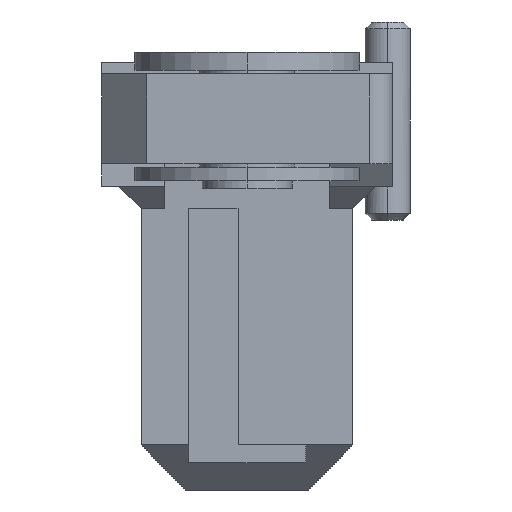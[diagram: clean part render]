
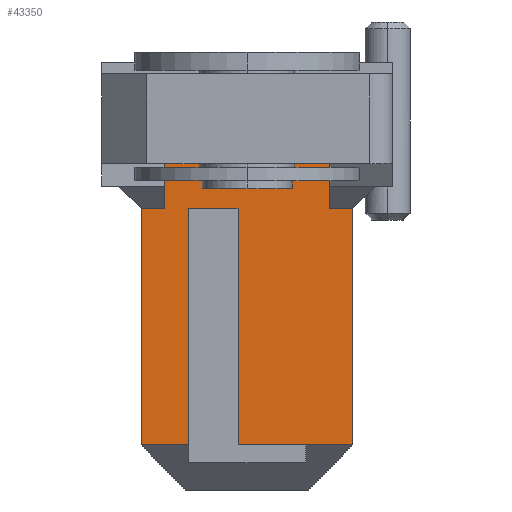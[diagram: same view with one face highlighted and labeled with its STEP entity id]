
A CAD part, left-side view. The second image highlights one B-rep face of the part: STEP entity #43350.
In plain terms, the highlighted planar face has unit normal (-1, 0, 0).
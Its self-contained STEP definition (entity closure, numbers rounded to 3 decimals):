
#42240=CARTESIAN_POINT('',(23.222,-3.386,-19.));
#42250=DIRECTION('',(-1.,0.,0.));
#42260=DIRECTION('',(0.,-1.,0.));
#42270=AXIS2_PLACEMENT_3D('',#42240,#42250,#42260);
#42280=PLANE('',#42270);
#42290=CARTESIAN_POINT('',(23.222,3.914,0.));
#42300=DIRECTION('',(0.,0.,1.));
#42310=VECTOR('',#42300,1.);
#42320=LINE('',#42290,#42310);
#42330=CARTESIAN_POINT('',(23.222,3.914,-17.));
#42340=VERTEX_POINT('',#42330);
#42350=CARTESIAN_POINT('',(23.222,3.914,
-6.5));
#42360=VERTEX_POINT('',#42350);
#42370=EDGE_CURVE('',#42340,#42360,#42320,.T.);
#42380=ORIENTED_EDGE('',*,*,#42370,.T.);
#42390=CARTESIAN_POINT('',(23.222,0.,-17.))
;
#42400=DIRECTION('',(0.,-1.,0.));
#42410=VECTOR('',#42400,1.);
#42420=LINE('',#42390,#42410);
#42430=CARTESIAN_POINT('',(23.222,6.014,-17.));
#42440=VERTEX_POINT('',#42430);
#42450=EDGE_CURVE('',#42440,#42340,#42420,.T.);
#42460=ORIENTED_EDGE('',*,*,#42450,.T.);
#42470=CARTESIAN_POINT('',(23.222,6.014,0.));
#42480=DIRECTION('',(0.,0.,1.));
#42490=VECTOR('',#42480,1.);
#42500=LINE('',#42470,#42490);
#42510=CARTESIAN_POINT('',(23.222,6.014,
-6.5));
#42520=VERTEX_POINT('',#42510);
#42530=EDGE_CURVE('',#42440,#42520,#42500,.T.);
#42540=ORIENTED_EDGE('',*,*,#42530,.F.);
#42550=CARTESIAN_POINT('',(23.222,5.989,
-6.5));
#42560=DIRECTION('',(0.,1.,0.));
#42570=VECTOR('',#42560,1.);
#42580=LINE('',#42550,#42570);
#42590=CARTESIAN_POINT('',(23.222,4.964,
-6.5));
#42600=VERTEX_POINT('',#42590);
#42610=EDGE_CURVE('',#42600,#42520,#42580,.T.);
#42620=ORIENTED_EDGE('',*,*,#42610,.T.);
#42630=CARTESIAN_POINT('',(23.222,4.964,0.));
#42640=DIRECTION('',(0.,0.,1.));
#42650=VECTOR('',#42640,1.);
#42660=LINE('',#42630,#42650);
#42670=CARTESIAN_POINT('',(23.222,4.964,-4.5));
#42680=VERTEX_POINT('',#42670);
#42690=EDGE_CURVE('',#42600,#42680,#42660,.T.);
#42700=ORIENTED_EDGE('',*,*,#42690,.F.);
#42710=CARTESIAN_POINT('',(23.222,0.,-4.5))
;
#42720=DIRECTION('',(0.,-1.,0.));
#42730=VECTOR('',#42720,1.);
#42740=LINE('',#42710,#42730);
#42750=CARTESIAN_POINT('',(23.222,-2.336,-4.5));
#42760=VERTEX_POINT('',#42750);
#42770=EDGE_CURVE('',#42680,#42760,#42740,.T.);
#42780=ORIENTED_EDGE('',*,*,#42770,.F.);
#42790=CARTESIAN_POINT('',(23.222,-2.336,0.));
#42800=DIRECTION('',(0.,0.,-1.));
#42810=VECTOR('',#42800,1.);
#42820=LINE('',#42790,#42810);
#42830=CARTESIAN_POINT('',(23.222,-2.336,
-6.5));
#42840=VERTEX_POINT('',#42830);
#42850=EDGE_CURVE('',#42760,#42840,#42820,.T.);
#42860=ORIENTED_EDGE('',*,*,#42850,.F.);
#42870=CARTESIAN_POINT('',(23.222,0.,-6.5));
#42880=DIRECTION('',(0.,-1.,0.));
#42890=VECTOR('',#42880,1.);
#42900=LINE('',#42870,#42890);
#42910=CARTESIAN_POINT('',(23.222,-3.386,
-6.5));
#42920=VERTEX_POINT('',#42910);
#42930=EDGE_CURVE('',#42840,#42920,#42900,.T.);
#42940=ORIENTED_EDGE('',*,*,#42930,.F.);
#42950=CARTESIAN_POINT('',(23.222,-3.386,0.));
#42960=DIRECTION('',(0.,0.,-1.));
#42970=VECTOR('',#42960,1.);
#42980=LINE('',#42950,#42970);
#42990=CARTESIAN_POINT('',(23.222,-3.386,-17.));
#43000=VERTEX_POINT('',#42990);
#43010=EDGE_CURVE('',#42920,#43000,#42980,.T.);
#43020=ORIENTED_EDGE('',*,*,#43010,.F.);
#43030=CARTESIAN_POINT('',(23.222,0.,-17.))
;
#43040=DIRECTION('',(0.,-1.,0.));
#43050=VECTOR('',#43040,1.);
#43060=LINE('',#43030,#43050);
#43070=CARTESIAN_POINT('',(23.222,-1.286,-17.));
#43080=VERTEX_POINT('',#43070);
#43090=EDGE_CURVE('',#43080,#43000,#43060,.T.);
#43100=ORIENTED_EDGE('',*,*,#43090,.T.);
#43110=CARTESIAN_POINT('',(23.222,0.,-17.))
;
#43120=DIRECTION('',(0.,-1.,0.));
#43130=VECTOR('',#43120,1.);
#43140=LINE('',#43110,#43130);
#43150=CARTESIAN_POINT('',(23.222,1.714,-17.));
#43160=VERTEX_POINT('',#43150);
#43170=EDGE_CURVE('',#43160,#43080,#43140,.T.);
#43180=ORIENTED_EDGE('',*,*,#43170,.T.);
#43190=CARTESIAN_POINT('',(23.222,1.714,0.));
#43200=DIRECTION('',(0.,0.,1.));
#43210=VECTOR('',#43200,1.);
#43220=LINE('',#43190,#43210);
#43230=CARTESIAN_POINT('',(23.222,1.714,
-6.5));
#43240=VERTEX_POINT('',#43230);
#43250=EDGE_CURVE('',#43160,#43240,#43220,.T.);
#43260=ORIENTED_EDGE('',*,*,#43250,.F.);
#43270=CARTESIAN_POINT('',(23.222,0.,-6.5));
#43280=DIRECTION('',(0.,1.,0.));
#43290=VECTOR('',#43280,1.);
#43300=LINE('',#43270,#43290);
#43310=EDGE_CURVE('',#43240,#42360,#43300,.T.);
#43320=ORIENTED_EDGE('',*,*,#43310,.F.);
#43330=EDGE_LOOP('',(#43320,#43260,#43180,#43100,#43020,#42940,#42860,
#42780,#42700,#42620,#42540,#42460,#42380));
#43340=FACE_OUTER_BOUND('',#43330,.T.);
#43350=ADVANCED_FACE('',(#43340),#42280,.T.);
